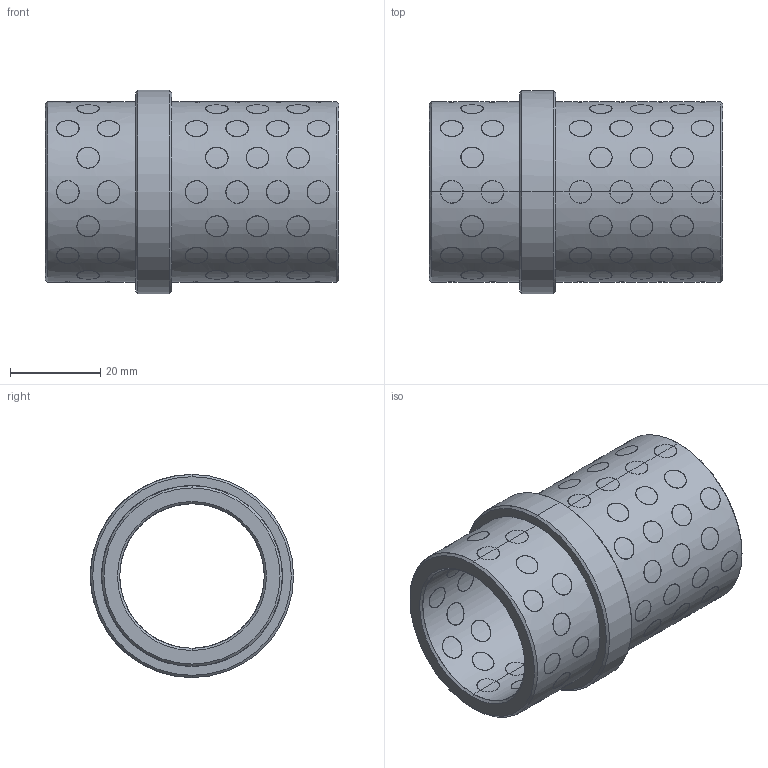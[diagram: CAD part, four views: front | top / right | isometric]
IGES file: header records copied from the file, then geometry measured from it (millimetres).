
Start section: START RECORD GO HERE.
Global section: file name: G4023245.igs; native system: DASSAULT SYSTEMES CATIA V5 R20 - www.3ds.com; preprocessor: CATIA Version 5 Release 20 ; author: r.borello; organization: CFTORINO; date: 20190624.143721; units: millimetre
Bounding box: 65 x 45 x 45 mm (x, y, z)
Surface area: 26173.6 mm2 (no closed solid volume)
Topology: 0 solids, 0 shells, 528 faces, 2304 edges, 2304 vertices
Faces by surface type: revolution 524, plane 4
